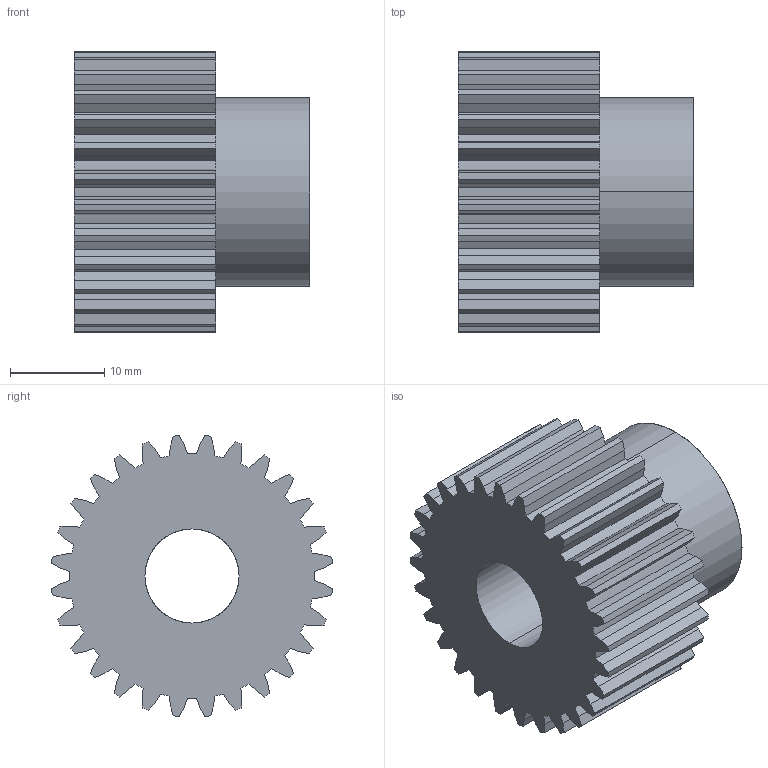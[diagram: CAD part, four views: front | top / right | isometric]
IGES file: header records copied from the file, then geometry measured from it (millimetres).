
Start section: SolidWorks IGES file using analytic representation for surfaces
Global section: file name: C:\Users\Honza\Desktop\Èelní ozubená kola\rozbalene\PM\MODUL 1\PM 26028.IGS; native system: SolidWorks 2010; preprocessor: SolidWorks 2010; author: Honza; date: 130923.143335; units: millimetre
Bounding box: 25 x 29.88 x 29.88 mm (x, y, z)
Surface area: 4954.8 mm2 (no closed solid volume)
Topology: 0 solids, 0 shells, 175 faces, 1153 edges, 1153 vertices
Faces by surface type: bspline 115, revolution 60
